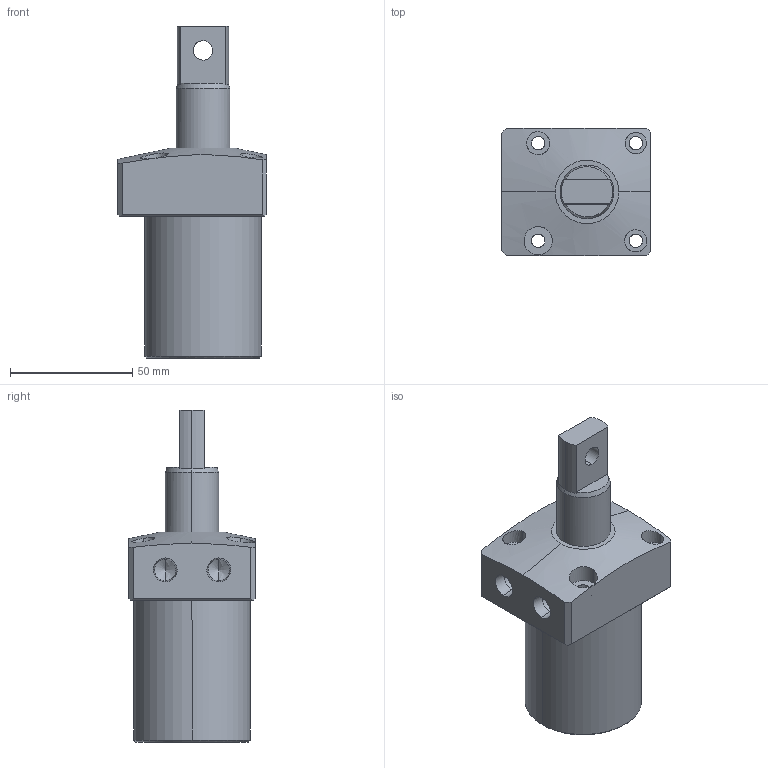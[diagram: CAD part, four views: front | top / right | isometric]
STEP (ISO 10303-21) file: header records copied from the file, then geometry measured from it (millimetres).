
FILE_DESCRIPTION (( 'STEP AP214' ), '1' );
FILE_NAME ('SC02-482-LP-TOP PTYPE.STEP', '2021-08-22T06:43:44', ( '' ), ( '' ), 'SwSTEP 2.0', 'SolidWorks 2019', '' );
FILE_SCHEMA (( 'AUTOMOTIVE_DESIGN' ));
Length unit declared in the file: inch
Products named in the file (4): 48-PTYPE-PISTON.IGS; SC02-482-LP-TOP PTYPE; SC02-482-LP-TOP PTYPE.IGS; TOP-48-BODY.IGS
Assembly tree (3 placements, depth 3):
  SC02-482-LP-TOP PTYPE
    SC02-482-LP-TOP PTYPE.IGS
      TOP-48-BODY.IGS
      48-PTYPE-PISTON.IGS
Bounding box: 61 x 52 x 136 mm (x, y, z)
Volume: 186323.1 mm3; surface area: 35525.5 mm2
Topology: 2 solids, 2 shells, 77 faces, 182 edges, 115 vertices
Faces by surface type: bspline 77
Entity records: 4120 total; most frequent: CARTESIAN_POINT 2889, ORIENTED_EDGE 356, EDGE_CURVE 178, B_SPLINE_CURVE_WITH_KNOTS 126, VERTEX_POINT 115, EDGE_LOOP 97, FACE_OUTER_BOUND 77, ADVANCED_FACE 77
